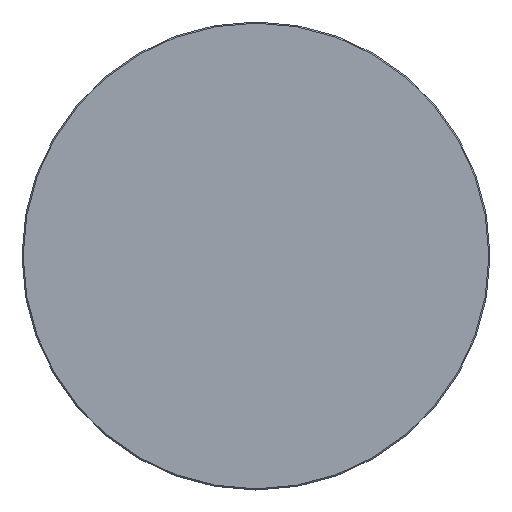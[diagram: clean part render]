
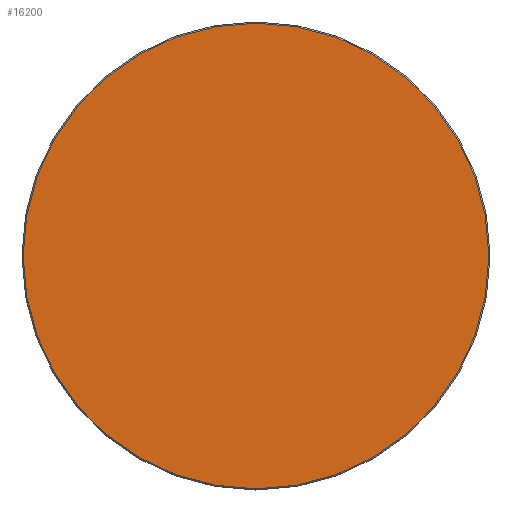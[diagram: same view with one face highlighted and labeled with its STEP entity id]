
A CAD part, top view. The second image highlights one B-rep face of the part: STEP entity #16200.
In plain terms, the highlighted planar face has unit normal (0, 0, 1).
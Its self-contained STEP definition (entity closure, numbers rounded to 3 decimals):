
#16125=CARTESIAN_POINT('',(0.,0.,20.));
#16126=DIRECTION('',(1.,0.,0.));
#16127=DIRECTION('',(0.,0.,1.));
#16128=AXIS2_PLACEMENT_3D('',#16125,#16127,#16126);
#16129=PLANE('',#16128);
#16130=CARTESIAN_POINT('',(-0.5,-298.5,20.));
#16131=VERTEX_POINT('',#16130);
#16132=CARTESIAN_POINT('',(0.5,-298.5,20.));
#16133=VERTEX_POINT('',#16132);
#16134=CARTESIAN_POINT('',(-0.5,-298.5,20.));
#16135=DIRECTION('',(1.,0.,0.));
#16136=VECTOR('',#16135,1.);
#16137=LINE('',#16134,#16136);
#16138=EDGE_CURVE('',#16131,#16133,#16137,.T.);
#16139=ORIENTED_EDGE('E105',*,*,#16138,.T.);
#16140=CARTESIAN_POINT('',(298.5,-0.5,20.));
#16141=VERTEX_POINT('',#16140);
#16142=CARTESIAN_POINT('',(0.5,-0.5,20.));
#16143=DIRECTION('',(0.,-1.,0.));
#16144=DIRECTION('',(0.,-0.,1.));
#16145=AXIS2_PLACEMENT_3D('',#16142,#16144,#16143);
#16146=CIRCLE('',#16145,298.);
#16147=EDGE_CURVE('',#16133,#16141,#16146,.T.);
#16148=ORIENTED_EDGE('E107',*,*,#16147,.T.);
#16149=CARTESIAN_POINT('',(298.5,0.5,20.));
#16150=VERTEX_POINT('',#16149);
#16151=CARTESIAN_POINT('',(298.5,-0.5,20.));
#16152=DIRECTION('',(0.,1.,0.));
#16153=VECTOR('',#16152,1.);
#16154=LINE('',#16151,#16153);
#16155=EDGE_CURVE('',#16141,#16150,#16154,.T.);
#16156=ORIENTED_EDGE('E109',*,*,#16155,.T.);
#16157=CARTESIAN_POINT('',(0.5,298.5,20.));
#16158=VERTEX_POINT('',#16157);
#16159=CARTESIAN_POINT('',(0.5,0.5,20.));
#16160=DIRECTION('',(1.,0.,0.));
#16161=DIRECTION('',(0.,0.,1.));
#16162=AXIS2_PLACEMENT_3D('',#16159,#16161,#16160);
#16163=CIRCLE('',#16162,298.);
#16164=EDGE_CURVE('',#16150,#16158,#16163,.T.);
#16165=ORIENTED_EDGE('E111',*,*,#16164,.T.);
#16166=CARTESIAN_POINT('',(-0.5,298.5,20.));
#16167=VERTEX_POINT('',#16166);
#16168=CARTESIAN_POINT('',(0.5,298.5,20.));
#16169=DIRECTION('',(-1.,0.,0.));
#16170=VECTOR('',#16169,1.);
#16171=LINE('',#16168,#16170);
#16172=EDGE_CURVE('',#16158,#16167,#16171,.T.);
#16173=ORIENTED_EDGE('E113',*,*,#16172,.T.);
#16174=CARTESIAN_POINT('',(-298.5,0.5,20.));
#16175=VERTEX_POINT('',#16174);
#16176=CARTESIAN_POINT('',(-0.5,0.5,20.));
#16177=DIRECTION('',(0.,1.,0.));
#16178=DIRECTION('',(0.,0.,1.));
#16179=AXIS2_PLACEMENT_3D('',#16176,#16178,#16177);
#16180=CIRCLE('',#16179,298.);
#16181=EDGE_CURVE('',#16167,#16175,#16180,.T.);
#16182=ORIENTED_EDGE('E115',*,*,#16181,.T.);
#16183=CARTESIAN_POINT('',(-298.5,-0.5,20.));
#16184=VERTEX_POINT('',#16183);
#16185=CARTESIAN_POINT('',(-298.5,0.5,20.));
#16186=DIRECTION('',(0.,-1.,0.));
#16187=VECTOR('',#16186,1.);
#16188=LINE('',#16185,#16187);
#16189=EDGE_CURVE('',#16175,#16184,#16188,.T.);
#16190=ORIENTED_EDGE('E117',*,*,#16189,.T.);
#16191=CARTESIAN_POINT('',(-0.5,-0.5,20.));
#16192=DIRECTION('',(-1.,0.,0.));
#16193=DIRECTION('',(0.,0.,1.));
#16194=AXIS2_PLACEMENT_3D('',#16191,#16193,#16192);
#16195=CIRCLE('',#16194,298.);
#16196=EDGE_CURVE('',#16184,#16131,#16195,.T.);
#16197=ORIENTED_EDGE('E119',*,*,#16196,.T.);
#16198=EDGE_LOOP('',(#16139,#16148,#16156,#16165,#16173,#16182,#16190,#16197));
#16199=FACE_OUTER_BOUND('',#16198,.T.);
#16200=ADVANCED_FACE('F2',(#16199),#16129,.T.);
